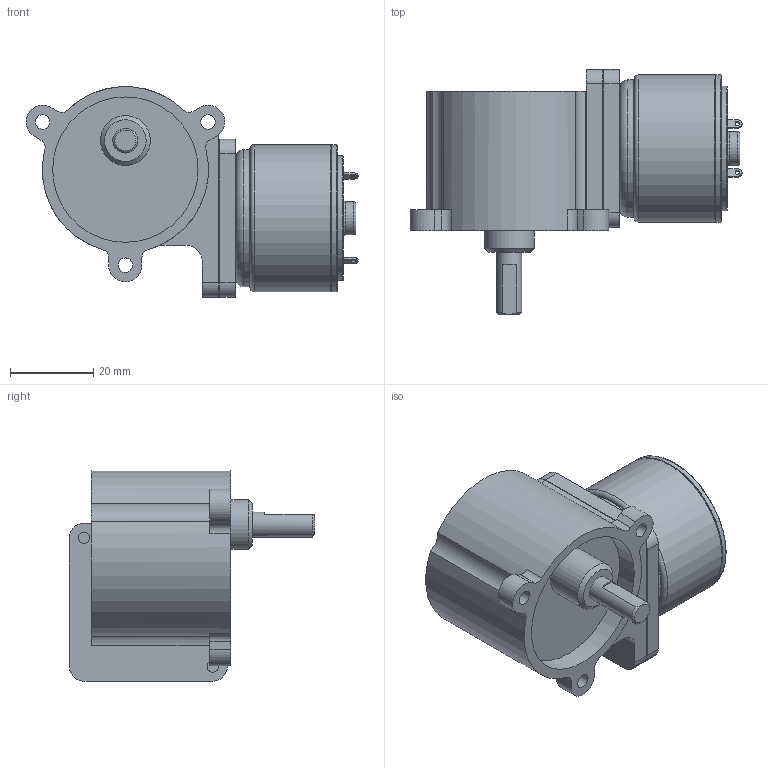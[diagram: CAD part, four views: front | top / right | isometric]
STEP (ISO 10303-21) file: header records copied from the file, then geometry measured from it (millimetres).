
FILE_DESCRIPTION((''),'2;1');
FILE_NAME('C:\Documents and Settings\SSEGAWA\デスクトップ\TP-3526E-KW.STP','2013-07-11T10:52:28',('SSEGAWA'),(''),'Autodesk Inventor 2010','Autodesk Inventor 2010','');
FILE_SCHEMA(('CONFIG_CONTROL_DESIGN'));
Length unit declared in the file: millimetre
Products named in the file (3): tp_3526e_kw; kw; tp_3526e
Assembly tree (2 placements, depth 2):
  tp_3526e_kw
    kw
    tp_3526e
Bounding box: 79.92 x 59 x 50.63 mm (x, y, z)
Volume: 76187.3 mm3; surface area: 16205.6 mm2
Topology: 2 solids, 2 shells, 127 faces, 301 edges, 199 vertices
Faces by surface type: plane 53, cylinder 45, bspline 21, torus 5, cone 3
Full cylindrical faces by diameter (mm): 1.1 x1, 2 x1, 2.4 x1, 5 x1, 6 x1, 8 x1, 10 x2, 12 x1, 30 x1, 33 x1, 35 x2, 35.4 x2
Entity records: 3796 total; most frequent: CARTESIAN_POINT 953, DIRECTION 600, ORIENTED_EDGE 498, EDGE_CURVE 249, AXIS2_PLACEMENT_3D 242, EDGE_LOOP 197, VERTEX_POINT 186, CIRCLE 131
